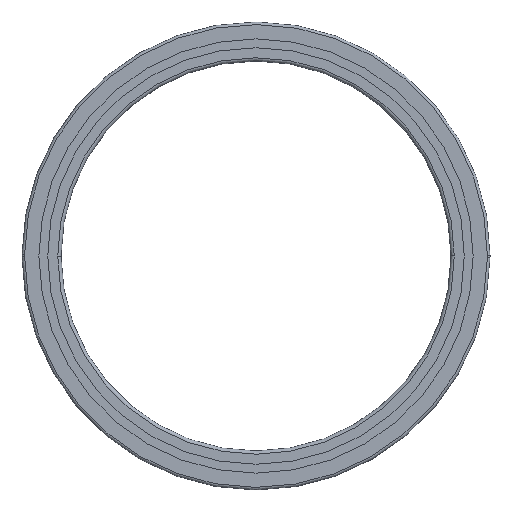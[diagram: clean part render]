
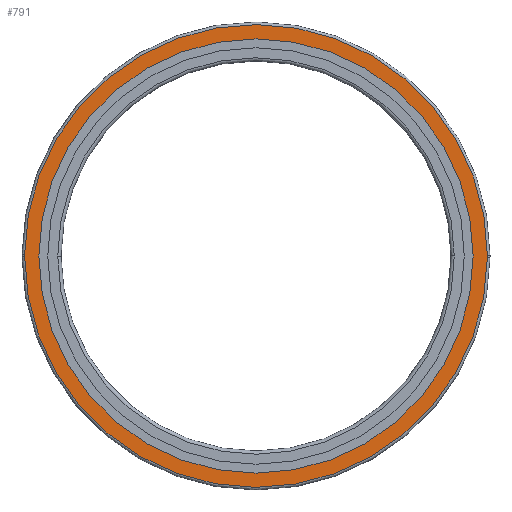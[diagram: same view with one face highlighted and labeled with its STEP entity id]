
A CAD part, front view. The second image highlights one B-rep face of the part: STEP entity #791.
In plain terms, the highlighted planar face has unit normal (0, -1, 0).
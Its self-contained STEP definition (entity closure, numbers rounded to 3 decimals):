
#337=VERTEX_POINT('',#878);
#341=EDGE_CURVE('',#725,#337,#882,.T.);
#369=VERTEX_POINT('',#914);
#399=EDGE_CURVE('',#403,#809,#947,.T.);
#403=VERTEX_POINT('',#951);
#545=VERTEX_POINT('',#1110);
#555=EDGE_CURVE('',#545,#403,#1120,.T.);
#695=EDGE_CURVE('',#369,#545,#1282,.T.);
#713=EDGE_CURVE('',#337,#725,#1301,.T.);
#725=VERTEX_POINT('',#1314);
#785=EDGE_CURVE('',#809,#369,#1382,.T.);
#791=ADVANCED_FACE('',(#1389,#1390),#1391,.F.);
#809=VERTEX_POINT('',#1411);
#878=CARTESIAN_POINT('',(-167.0,0.0,0.0));
#882=CIRCLE('',#1488,167.0);
#914=CARTESIAN_POINT('',(-178.0,0.0,0.));
#947=CIRCLE('',#1569,178.0);
#951=CARTESIAN_POINT('',(178.0,0.0,0.0));
#1110=CARTESIAN_POINT('',(177.997,0.0,-1.101));
#1120=CIRCLE('',#1783,178.0);
#1282=CIRCLE('',#1983,178.0);
#1301=CIRCLE('',#2009,167.0);
#1314=CARTESIAN_POINT('',(167.0,0.0,0.));
#1382=CIRCLE('',#2107,178.0);
#1389=FACE_OUTER_BOUND('',#2115,.T.);
#1390=FACE_BOUND('',#2116,.T.);
#1391=PLANE('',#2117);
#1411=CARTESIAN_POINT('',(-177.997,0.0,1.101));
#1488=AXIS2_PLACEMENT_3D('',#2190,#2191,#2192);
#1569=AXIS2_PLACEMENT_3D('',#2275,#2276,#2277);
#1783=AXIS2_PLACEMENT_3D('',#2507,#2508,#2509);
#1983=AXIS2_PLACEMENT_3D('',#2751,#2752,#2753);
#2009=AXIS2_PLACEMENT_3D('',#2770,#2771,#2772);
#2107=AXIS2_PLACEMENT_3D('',#2890,#2891,#2892);
#2115=EDGE_LOOP('',(#2905,#2906,#2907,#2908));
#2116=EDGE_LOOP('',(#2909,#2910));
#2117=AXIS2_PLACEMENT_3D('',#2911,#2912,#2913);
#2190=CARTESIAN_POINT('',(0.0,0.0,0.0));
#2191=DIRECTION('',(0.0,-1.0,0.0));
#2192=DIRECTION('',(1.0,0.0,0.0));
#2275=CARTESIAN_POINT('',(0.0,0.0,0.0));
#2276=DIRECTION('',(0.0,-1.0,0.0));
#2277=DIRECTION('',(1.0,0.0,0.0));
#2507=CARTESIAN_POINT('',(0.0,0.0,0.0));
#2508=DIRECTION('',(0.0,-1.0,0.0));
#2509=DIRECTION('',(-1.0,0.0,0.0));
#2751=CARTESIAN_POINT('',(0.0,0.0,0.0));
#2752=DIRECTION('',(0.0,-1.0,0.0));
#2753=DIRECTION('',(-1.0,0.0,0.0));
#2770=CARTESIAN_POINT('',(0.0,0.0,0.0));
#2771=DIRECTION('',(0.0,-1.0,0.0));
#2772=DIRECTION('',(-1.0,0.0,0.0));
#2890=CARTESIAN_POINT('',(0.0,0.0,0.0));
#2891=DIRECTION('',(0.0,-1.0,0.0));
#2892=DIRECTION('',(1.0,0.0,0.0));
#2905=ORIENTED_EDGE('',*,*,#399,.T.);
#2906=ORIENTED_EDGE('',*,*,#785,.T.);
#2907=ORIENTED_EDGE('',*,*,#695,.T.);
#2908=ORIENTED_EDGE('',*,*,#555,.T.);
#2909=ORIENTED_EDGE('',*,*,#713,.F.);
#2910=ORIENTED_EDGE('',*,*,#341,.F.);
#2911=CARTESIAN_POINT('',(0.0,0.0,0.0));
#2912=DIRECTION('',(0.0,1.0,0.0));
#2913=DIRECTION('',(1.0,0.0,-0.0));
